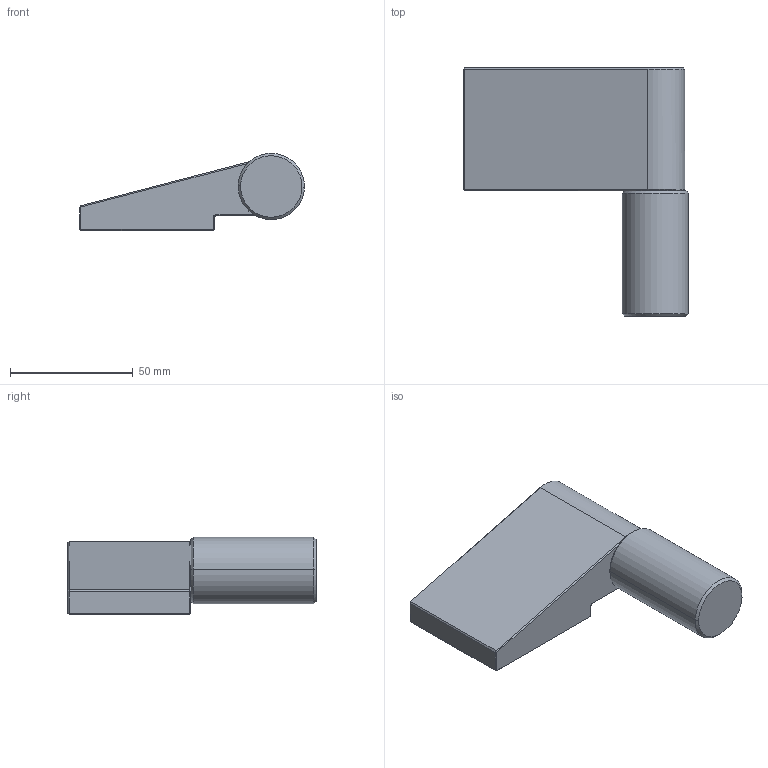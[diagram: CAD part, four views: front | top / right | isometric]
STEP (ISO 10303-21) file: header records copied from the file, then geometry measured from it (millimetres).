
FILE_DESCRIPTION (( 'STEP AP214' ), '1' );
FILE_NAME ('3.ST102.002.STEP', '2016-09-09T06:31:43', ( '' ), ( '' ), 'SwSTEP 2.0', 'SolidWorks 2015', '' );
FILE_SCHEMA (( 'AUTOMOTIVE_DESIGN' ));
Length unit declared in the file: millimetre
Products named in the file (4): 3.ST102.002; 3.ST102.001.03_ciecie; 3.ST102.001.02; 3.ST102.002.01_GOTOWY
Assembly tree (3 placements, depth 2):
  3.ST102.002
    3.ST102.002.01_GOTOWY
    3.ST102.001.02
    3.ST102.001.03_ciecie
Bounding box: 91.49 x 101 x 31.49 mm (x, y, z)
Volume: 108516.3 mm3; surface area: 23401.1 mm2
Topology: 3 solids, 3 shells, 72 faces, 149 edges, 86 vertices
Faces by surface type: plane 35, cone 19, cylinder 18
Entity records: 2027 total; most frequent: DIRECTION 361, CARTESIAN_POINT 313, ORIENTED_EDGE 298, EDGE_CURVE 149, AXIS2_PLACEMENT_3D 134, VECTOR 93, LINE 93, VERTEX_POINT 86
